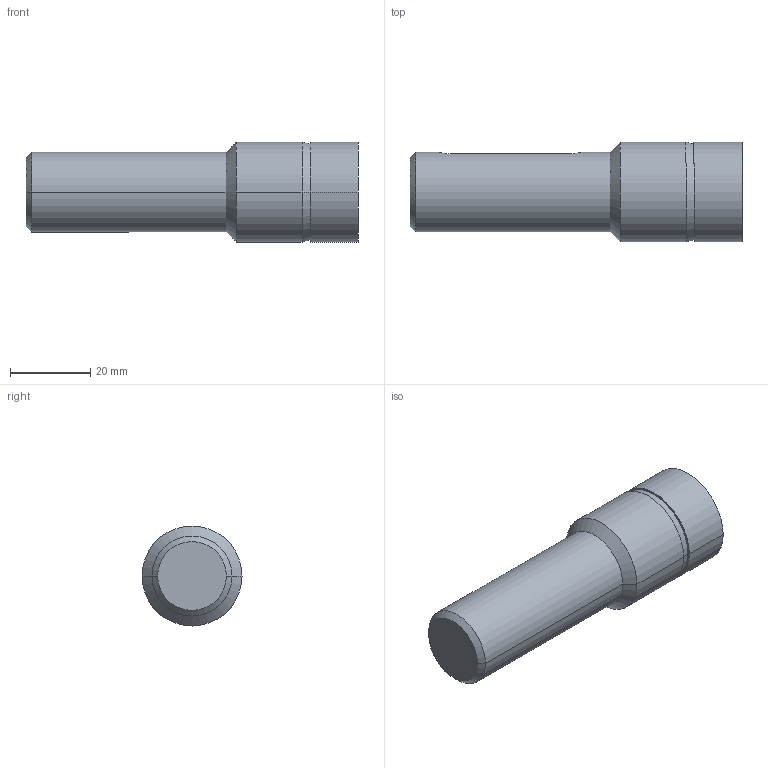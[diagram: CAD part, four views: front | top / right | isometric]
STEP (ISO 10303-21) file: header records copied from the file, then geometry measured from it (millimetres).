
FILE_DESCRIPTION (( 'STEP AP203' ), '1' );
FILE_NAME ('S1-25.STEP', '2002-08-16T10:47:46', ( '.' ), ( '.' ), 'SwSTEP 2.0', 'SolidWorks 2001340', '' );
FILE_SCHEMA (( 'CONFIG_CONTROL_DESIGN' ));
Length unit declared in the file: millimetre
Products named in the file (1): S1-25
Bounding box: 83 x 25 x 25 mm (x, y, z)
Volume: 30879.2 mm3; surface area: 6822 mm2
Topology: 1 solids, 1 shells, 20 faces, 43 edges, 26 vertices
Faces by surface type: cylinder 8, cone 6, plane 6
Entity records: 674 total; most frequent: CARTESIAN_POINT 154, DIRECTION 99, ORIENTED_EDGE 86, EDGE_CURVE 43, AXIS2_PLACEMENT_3D 39, VERTEX_POINT 26, EDGE_LOOP 21, LINE 21
